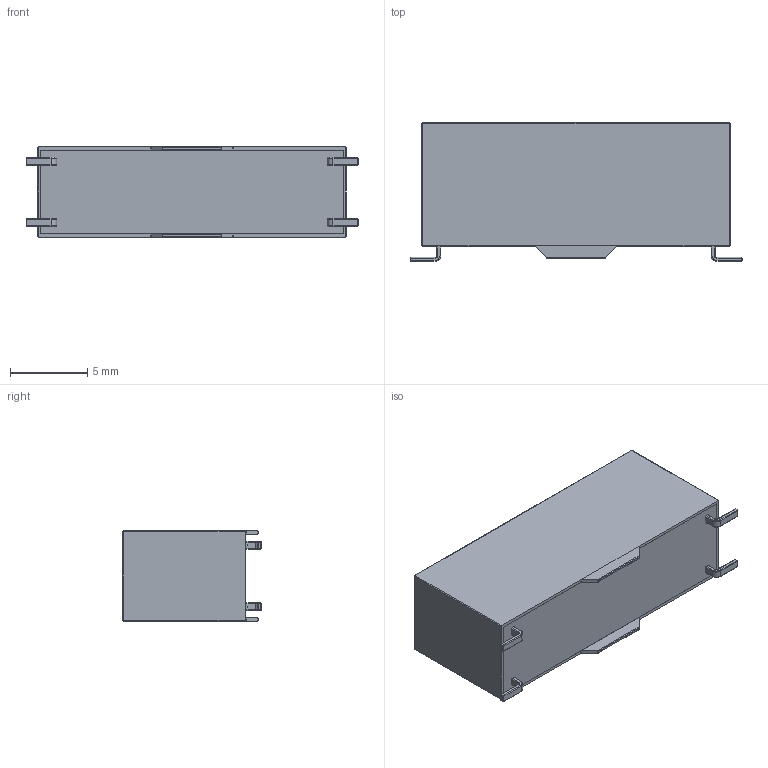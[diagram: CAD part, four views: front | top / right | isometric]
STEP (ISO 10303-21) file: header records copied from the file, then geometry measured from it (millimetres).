
FILE_DESCRIPTION (( 'STEP AP203' ), '1' );
FILE_NAME ('200-1-A (wet).STEP', '2010-06-29T12:20:48', ( ' ' ), ( '' ), 'SwSTEP 2.0', 'SolidWorks 2009', '' );
FILE_SCHEMA (( 'CONFIG_CONTROL_DESIGN' ));
Length unit declared in the file: inch
Products named in the file (4): 200-1-A (wet); 200-1-A (wet) shell; 200-1-A (wet) internal; 200 series pin
Assembly tree (6 placements, depth 2):
  200-1-A (wet)
    200 series pin  x4
    200-1-A (wet) internal
    200-1-A (wet) shell
Bounding box: 21.55 x 9 x 5.85 mm (x, y, z)
Volume: 938.5 mm3; surface area: 1671.3 mm2
Topology: 6 solids, 6 shells, 459 faces, 1140 edges, 712 vertices
Faces by surface type: plane 261, cylinder 96, bspline 66, sphere 20, torus 16
Entity records: 15456 total; most frequent: CARTESIAN_POINT 6733, ORIENTED_EDGE 1820, DIRECTION 1440, EDGE_CURVE 910, LINE 682, VECTOR 682, VERTEX_POINT 592, EDGE_LOOP 396
